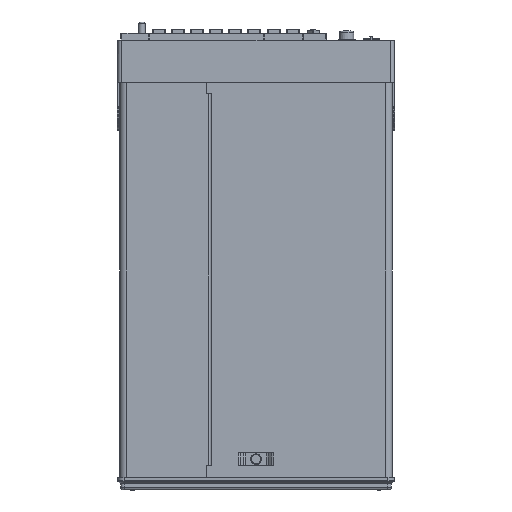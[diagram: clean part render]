
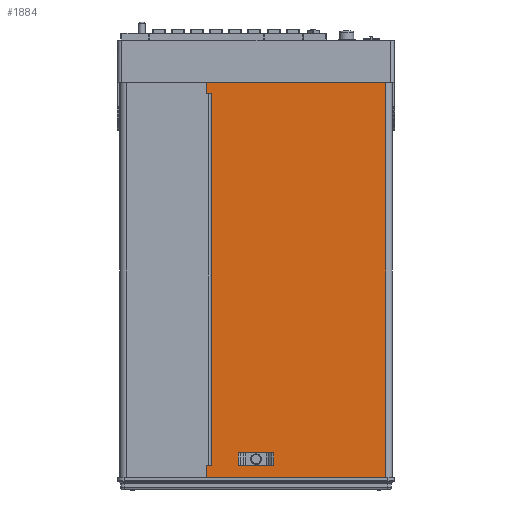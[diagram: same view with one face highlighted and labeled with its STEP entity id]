
A CAD part, front view. The second image highlights one B-rep face of the part: STEP entity #1884.
In plain terms, the highlighted planar face has unit normal (0, -1, 0).
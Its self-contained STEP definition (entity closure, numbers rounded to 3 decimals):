
#1884 = ADVANCED_FACE ( 'NONE', ( #28815, #28809 ), #4874, .T. ) ;
#4871 = CARTESIAN_POINT ( 'NONE',  ( -38.05, -42.6, -29.05 ) ) ;
#4874 = PLANE ( 'NONE',  #50957 ) ;
#4876 = DIRECTION ( 'NONE',  ( 0., -1., 0. ) ) ;
#4877 = DIRECTION ( 'NONE',  ( 1., 0., 0. ) ) ;
#16009 = EDGE_LOOP ( 'NONE', ( #27662, #27508, #27661, #27660 ) ) ;
#16018 = EDGE_LOOP ( 'NONE', ( #27718, #27659, #27510, #27514, #27571, #27513, #27658, #27679 ) ) ;
#23188 = CARTESIAN_POINT ( 'NONE',  ( 13.743, -42.6, -298.05 ) ) ;
#23189 = DIRECTION ( 'NONE',  ( 0., 0., 1. ) ) ;
#23240 = DIRECTION ( 'NONE',  ( 1., 0., 0. ) ) ;
#23246 = CARTESIAN_POINT ( 'NONE',  ( -12.5, -42.6, -328.05 ) ) ;
#23248 = CARTESIAN_POINT ( 'NONE',  ( -38.05, -42.6, -29.05 ) ) ;
#23258 = DIRECTION ( 'NONE',  ( 0., 0., -1. ) ) ;
#23259 = CARTESIAN_POINT ( 'NONE',  ( -38.05, -42.6, -41.05 ) ) ;
#23261 = CARTESIAN_POINT ( 'NONE',  ( -34.4, -42.6, -41.05 ) ) ;
#23268 = DIRECTION ( 'NONE',  ( -1., 0., 0. ) ) ;
#23274 = DIRECTION ( 'NONE',  ( 0., 0., -1. ) ) ;
#23277 = CARTESIAN_POINT ( 'NONE',  ( -34.4, -42.6, -328.05 ) ) ;
#23278 = DIRECTION ( 'NONE',  ( -1., 0., 0. ) ) ;
#23285 = CARTESIAN_POINT ( 'NONE',  ( -38.05, -42.6, -29.05 ) ) ;
#23286 = DIRECTION ( 'NONE',  ( 0., 0., -1. ) ) ;
#23301 = DIRECTION ( 'NONE',  ( 0., 0., -1. ) ) ;
#23306 = CARTESIAN_POINT ( 'NONE',  ( -12.5, -42.6, -318.05 ) ) ;
#23307 = CARTESIAN_POINT ( 'NONE',  ( -13.743, -42.6, -298.05 ) ) ;
#23308 = DIRECTION ( 'NONE',  ( 1., 0., 0. ) ) ;
#23310 = CARTESIAN_POINT ( 'NONE',  ( -38.05, -42.6, -29.05 ) ) ;
#25428 = CARTESIAN_POINT ( 'NONE',  ( -38.05, -42.6, -340.05 ) ) ;
#25430 = DIRECTION ( 'NONE',  ( -1., 0., 0. ) ) ;
#25432 = CARTESIAN_POINT ( 'NONE',  ( 100., -42.6, -29.05 ) ) ;
#25435 = DIRECTION ( 'NONE',  ( 0., 0., -1. ) ) ;
#25437 = DIRECTION ( 'NONE',  ( -1., 0., 0. ) ) ;
#27508 = ORIENTED_EDGE ( 'NONE', *, *, #58718, .T. ) ;
#27510 = ORIENTED_EDGE ( 'NONE', *, *, #58721, .F. ) ;
#27513 = ORIENTED_EDGE ( 'NONE', *, *, #58693, .T. ) ;
#27514 = ORIENTED_EDGE ( 'NONE', *, *, #58722, .F. ) ;
#27571 = ORIENTED_EDGE ( 'NONE', *, *, #58723, .T. ) ;
#27658 = ORIENTED_EDGE ( 'NONE', *, *, #58698, .F. ) ;
#27659 = ORIENTED_EDGE ( 'NONE', *, *, #58707, .T. ) ;
#27660 = ORIENTED_EDGE ( 'NONE', *, *, #58690, .F. ) ;
#27661 = ORIENTED_EDGE ( 'NONE', *, *, #58667, .F. ) ;
#27662 = ORIENTED_EDGE ( 'NONE', *, *, #58720, .F. ) ;
#27679 = ORIENTED_EDGE ( 'NONE', *, *, #58701, .T. ) ;
#27718 = ORIENTED_EDGE ( 'NONE', *, *, #58703, .T. ) ;
#28809 = FACE_OUTER_BOUND ( 'NONE', #16018, .T. ) ;
#28815 = FACE_BOUND ( 'NONE', #16009, .T. ) ;
#33596 = LINE ( 'NONE', #23188, #33598 ) ;
#33598 = VECTOR ( 'NONE', #23189, 1000. ) ;
#33633 = LINE ( 'NONE', #23246, #33635 ) ;
#33635 = VECTOR ( 'NONE', #23240, 1000. ) ;
#33636 = LINE ( 'NONE', #23248, #33641 ) ;
#33641 = VECTOR ( 'NONE', #23258, 1000. ) ;
#33642 = LINE ( 'NONE', #23259, #33651 ) ;
#33648 = LINE ( 'NONE', #23261, #33657 ) ;
#33651 = VECTOR ( 'NONE', #23268, 1000. ) ;
#33657 = VECTOR ( 'NONE', #23274, 1000. ) ;
#33658 = LINE ( 'NONE', #23277, #33661 ) ;
#33661 = VECTOR ( 'NONE', #23278, 1000. ) ;
#33666 = LINE ( 'NONE', #23285, #33669 ) ;
#33669 = VECTOR ( 'NONE', #23286, 1000. ) ;
#33688 = LINE ( 'NONE', #23306, #33691 ) ;
#33690 = LINE ( 'NONE', #23310, #33700 ) ;
#33691 = VECTOR ( 'NONE', #23308, 1000. ) ;
#33692 = LINE ( 'NONE', #23307, #33694 ) ;
#33693 = LINE ( 'NONE', #25428, #33696 ) ;
#33694 = VECTOR ( 'NONE', #23301, 1000. ) ;
#33695 = LINE ( 'NONE', #25432, #33698 ) ;
#33696 = VECTOR ( 'NONE', #25430, 1000. ) ;
#33698 = VECTOR ( 'NONE', #25435, 1000. ) ;
#33700 = VECTOR ( 'NONE', #25437, 1000. ) ;
#47442 = CARTESIAN_POINT ( 'NONE',  ( -34.4, -42.6, -41.05 ) ) ;
#47452 = CARTESIAN_POINT ( 'NONE',  ( 100., -42.6, -340.05 ) ) ;
#47485 = CARTESIAN_POINT ( 'NONE',  ( -38.05, -42.6, -41.05 ) ) ;
#50957 = AXIS2_PLACEMENT_3D ( 'NONE', #4871, #4876, #4877 ) ;
#55523 = CARTESIAN_POINT ( 'NONE',  ( -38.05, -42.6, -328.05 ) ) ;
#55842 = CARTESIAN_POINT ( 'NONE',  ( 100., -42.6, -29.05 ) ) ;
#55942 = CARTESIAN_POINT ( 'NONE',  ( -38.05, -42.6, -340.05 ) ) ;
#58667 = EDGE_CURVE ( 'NONE', #59645, #59649, #33596, .T. ) ;
#58690 = EDGE_CURVE ( 'NONE', #59619, #59645, #33633, .T. ) ;
#58693 = EDGE_CURVE ( 'NONE', #59997, #75020, #33636, .T. ) ;
#58698 = EDGE_CURVE ( 'NONE', #74899, #75020, #33642, .T. ) ;
#58701 = EDGE_CURVE ( 'NONE', #74899, #59927, #33648, .T. ) ;
#58703 = EDGE_CURVE ( 'NONE', #59927, #73843, #33658, .T. ) ;
#58707 = EDGE_CURVE ( 'NONE', #73843, #74554, #33666, .T. ) ;
#58718 = EDGE_CURVE ( 'NONE', #59666, #59649, #33688, .T. ) ;
#58720 = EDGE_CURVE ( 'NONE', #59666, #59619, #33692, .T. ) ;
#58721 = EDGE_CURVE ( 'NONE', #74928, #74554, #33693, .T. ) ;
#58722 = EDGE_CURVE ( 'NONE', #74254, #74928, #33695, .T. ) ;
#58723 = EDGE_CURVE ( 'NONE', #74254, #59997, #33690, .T. ) ;
#59619 = VERTEX_POINT ( 'NONE', #64868 ) ;
#59645 = VERTEX_POINT ( 'NONE', #64894 ) ;
#59649 = VERTEX_POINT ( 'NONE', #64898 ) ;
#59666 = VERTEX_POINT ( 'NONE', #64915 ) ;
#59927 = VERTEX_POINT ( 'NONE', #65115 ) ;
#59997 = VERTEX_POINT ( 'NONE', #65155 ) ;
#64868 = CARTESIAN_POINT ( 'NONE',  ( -13.743, -42.6, -328.05 ) ) ;
#64894 = CARTESIAN_POINT ( 'NONE',  ( 13.743, -42.6, -328.05 ) ) ;
#64898 = CARTESIAN_POINT ( 'NONE',  ( 13.743, -42.6, -318.05 ) ) ;
#64915 = CARTESIAN_POINT ( 'NONE',  ( -13.743, -42.6, -318.05 ) ) ;
#65115 = CARTESIAN_POINT ( 'NONE',  ( -34.4, -42.6, -328.05 ) ) ;
#65155 = CARTESIAN_POINT ( 'NONE',  ( -38.05, -42.6, -29.05 ) ) ;
#73843 = VERTEX_POINT ( 'NONE', #55523 ) ;
#74254 = VERTEX_POINT ( 'NONE', #55842 ) ;
#74554 = VERTEX_POINT ( 'NONE', #55942 ) ;
#74899 = VERTEX_POINT ( 'NONE', #47442 ) ;
#74928 = VERTEX_POINT ( 'NONE', #47452 ) ;
#75020 = VERTEX_POINT ( 'NONE', #47485 ) ;
